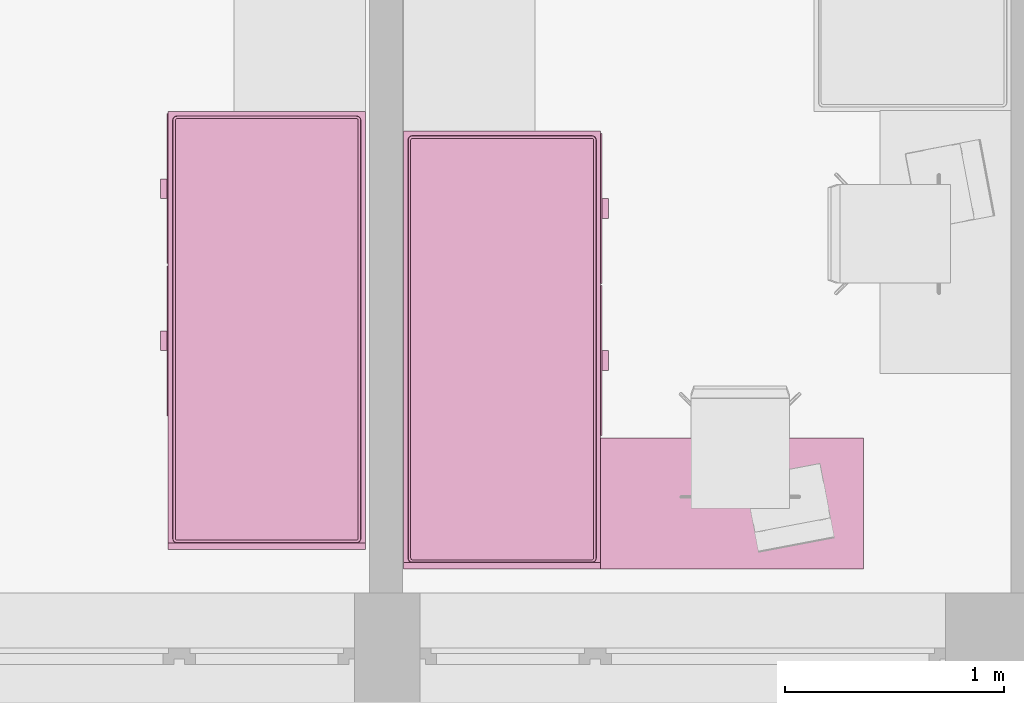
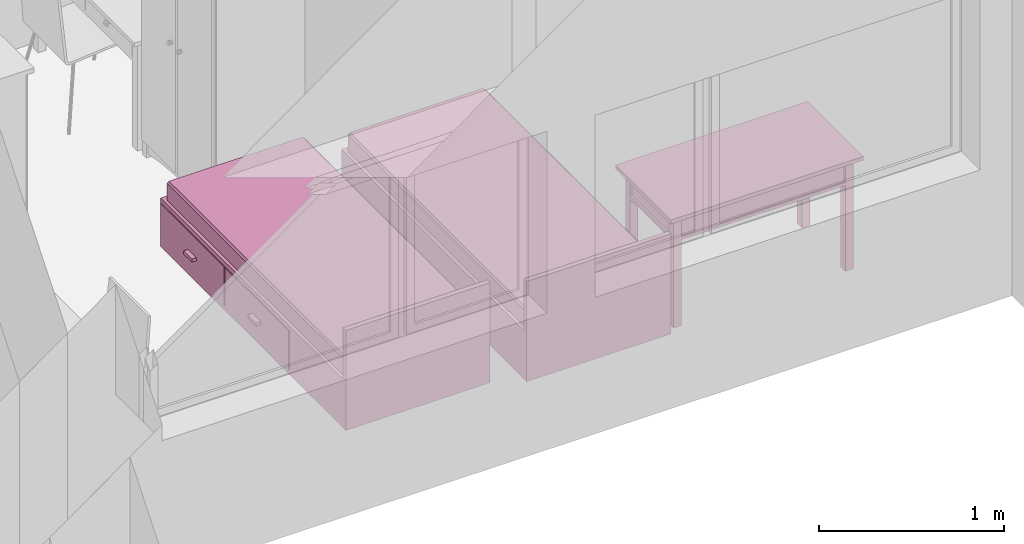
# One storey, part 78 of 172: 3 furnishings.
"""IFC2X3 building model written with IfcOpenShell, lengths in millimetres."""

from ifc_helpers import new_model, entity, si_unit, converted_unit, money_unit, direction, frame, origin_with_axes, place, context, subcontext, project, spatial, faceted_brep, source, transform, mapped, material, material_list, type_object, element, save


model = new_model("IFC2X3")

# Units and contexts
model_context = context("Model", 3, precision=1e-05, world=origin_with_axes(), true_north=direction((0.0, 1.0)))
body_context = subcontext(model_context, "Body", "Model", "MODEL_VIEW")
ifc_project = project(units=[si_unit("LENGTHUNIT", "METRE", prefix="MILLI"), si_unit("AREAUNIT", "SQUARE_METRE"), si_unit("VOLUMEUNIT", "CUBIC_METRE"), converted_unit("PLANEANGLEUNIT", "DEGREE", entity("IfcPlaneAngleMeasure", 0.0174532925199), si_unit("PLANEANGLEUNIT", "RADIAN"), dimensions=[0, 0, 0, 0, 0, 0, 0]), si_unit("SOLIDANGLEUNIT", "STERADIAN"), money_unit("USD"), converted_unit("TIMEUNIT", "Year", entity("IfcTimeMeasure", 31556926.0), si_unit("TIMEUNIT", "SECOND"), dimensions=[0, 0, 0, 0, 0, 0, 0]), si_unit("MASSUNIT", "GRAM"), si_unit("THERMODYNAMICTEMPERATUREUNIT", "DEGREE_CELSIUS"), si_unit("LUMINOUSINTENSITYUNIT", "LUMEN")], contexts=[model_context])

# Site, building, storey
site_placement = place(None, origin_with_axes())
site = spatial("IfcSite", under=ifc_project, at=site_placement, Name="Site", CompositionType="ELEMENT")
building_placement = place(site_placement, origin_with_axes())
building = spatial("IfcBuilding", under=site, at=building_placement, Name="Building", CompositionType="ELEMENT")
storey_placement = place(building_placement, frame((0.0, 0.0, 3200.0), z_axis=(0.0, 0.0, 1.0), x_axis=(1.0, 0.0, 0.0)))
storey = spatial("IfcBuildingStorey", under=building, at=storey_placement, Name="3KORRUS", CompositionType="ELEMENT", Elevation=3200.0)

# Furnishings
ifc_material = material(Name="Background")
ifc_material_list = material_list([ifc_material])
furnishing_element_type_1 = type_object("IfcFurnishingElementType", Name="Bed 19")
shared_shape_1 = source(origin_with_axes(), body_context, "Body", "Brep", [
    faceted_brep([(900.0, 1970.0, 0.0), (0.0, 1970.0, 0.0), (0.0, 2000.0, 0.0), (900.0, 2000.0, 0.0), (900.0, 1970.0, 660.0), (0.0, 1970.0, 660.0), (0.0, 2000.0, 660.0), (900.0, 2000.0, 660.0)], [[[0, 1, 2, 3]], [[1, 0, 4, 5]], [[2, 1, 5, 6]], [[3, 2, 6, 7]], [[0, 3, 7, 4]], [[5, 4, 7, 6]]]),
    faceted_brep([(900.0, 0.0, 0.0), (0.0, 0.0, 0.0), (0.0, 1970.0, 0.0), (900.0, 1970.0, 0.0), (900.0, 0.0, 320.0), (0.0, 0.0, 320.0), (0.0, 1970.0, 320.0), (900.0, 1970.0, 320.0)], [[[0, 1, 2, 3]], [[1, 0, 4, 5]], [[2, 1, 5, 6]], [[3, 2, 6, 7]], [[0, 3, 7, 4]], [[5, 4, 7, 6]]]),
    faceted_brep([(905.0, 10.0, 30.0), (900.0, 10.0, 30.0), (900.0, 695.0, 30.0), (905.0, 695.0, 30.0), (905.0, 10.0, 290.0), (900.0, 10.0, 290.0), (900.0, 695.0, 290.0), (905.0, 695.0, 290.0)], [[[0, 1, 2, 3]], [[1, 0, 4, 5]], [[2, 1, 5, 6]], [[3, 2, 6, 7]], [[0, 3, 7, 4]], [[5, 4, 7, 6]]]),
    faceted_brep([(935.0, 307.5, 150.0), (905.0, 307.5, 150.0), (905.0, 397.5, 150.0), (935.0, 397.5, 150.0), (935.0, 307.5, 170.0), (905.0, 307.5, 170.0), (905.0, 397.5, 170.0), (935.0, 397.5, 170.0)], [[[0, 1, 2, 3]], [[1, 0, 4, 5]], [[2, 1, 5, 6]], [[3, 2, 6, 7]], [[0, 3, 7, 4]], [[5, 4, 7, 6]]]),
    faceted_brep([(905.0, 705.0, 30.0), (900.0, 705.0, 30.0), (900.0, 1390.0, 30.0), (905.0, 1390.0, 30.0), (905.0, 705.0, 290.0), (900.0, 705.0, 290.0), (900.0, 1390.0, 290.0), (905.0, 1390.0, 290.0)], [[[0, 1, 2, 3]], [[1, 0, 4, 5]], [[2, 1, 5, 6]], [[3, 2, 6, 7]], [[0, 3, 7, 4]], [[5, 4, 7, 6]]]),
    faceted_brep([(935.0, 1002.5, 150.0), (905.0, 1002.5, 150.0), (905.0, 1092.5, 150.0), (935.0, 1092.5, 150.0), (935.0, 1002.5, 170.0), (905.0, 1002.5, 170.0), (905.0, 1092.5, 170.0), (935.0, 1092.5, 170.0)], [[[0, 1, 2, 3]], [[1, 0, 4, 5]], [[2, 1, 5, 6]], [[3, 2, 6, 7]], [[0, 3, 7, 4]], [[5, 4, 7, 6]]]),
    faceted_brep([(20.0, 40.0, 350.0), (20.0, 1950.0, 350.0), (21.522, 1957.654, 350.0), (25.858, 1964.142, 350.0), (32.346, 1968.478, 350.0), (40.0, 1970.0, 350.0), (860.0, 1970.0, 350.0), (867.654, 1968.478, 350.0), (874.142, 1964.142, 350.0), (878.478, 1957.654, 350.0), (880.0, 1950.0, 350.0), (880.0, 40.0, 350.0), (878.478, 32.346, 350.0), (874.142, 25.858, 350.0), (867.654, 21.522, 350.0), (860.0, 20.0, 350.0), (40.0, 20.0, 350.0), (32.346, 21.522, 350.0), (25.858, 25.858, 350.0), (21.522, 32.346, 350.0), (20.0, 40.0, 420.0), (20.0, 1950.0, 420.0), (21.522, 1957.654, 420.0), (25.858, 1964.142, 420.0), (32.346, 1968.478, 420.0), (40.0, 1970.0, 420.0), (860.0, 1970.0, 420.0), (867.654, 1968.478, 420.0), (874.142, 1964.142, 420.0), (878.478, 1957.654, 420.0), (880.0, 1950.0, 420.0), (880.0, 40.0, 420.0), (878.478, 32.346, 420.0), (874.142, 25.858, 420.0), (867.654, 21.522, 420.0), (860.0, 20.0, 420.0), (40.0, 20.0, 420.0), (32.346, 21.522, 420.0), (25.858, 25.858, 420.0), (21.522, 32.346, 420.0), (21.522, 40.15, 427.654), (21.522, 1949.85, 427.654), (22.956, 1957.06, 427.654), (26.955, 1963.045, 427.654), (32.94, 1967.044, 427.654), (40.15, 1968.478, 427.654), (859.85, 1968.478, 427.654), (867.06, 1967.044, 427.654), (873.045, 1963.045, 427.654), (877.044, 1957.06, 427.654), (878.478, 1949.85, 427.654), (878.478, 40.15, 427.654), (877.044, 32.94, 427.654), (873.045, 26.955, 427.654), (867.06, 22.956, 427.654), (859.85, 21.522, 427.654), (40.15, 21.522, 427.654), (32.94, 22.956, 427.654), (26.955, 26.955, 427.654), (22.956, 32.94, 427.654), (32.346, 41.216, 438.478), (32.346, 1948.784, 438.478), (33.152, 1952.836, 438.478), (34.759, 1955.241, 438.478), (37.164, 1956.848, 438.478), (41.216, 1957.654, 438.478), (858.784, 1957.654, 438.478), (862.836, 1956.848, 438.478), (865.241, 1955.241, 438.478), (866.848, 1952.836, 438.478), (867.654, 1948.784, 438.478), (867.654, 41.216, 438.478), (866.848, 37.164, 438.478), (865.241, 34.759, 438.478), (862.836, 33.152, 438.478), (858.784, 32.346, 438.478), (41.216, 32.346, 438.478), (37.164, 33.152, 438.478), (34.759, 34.759, 438.478), (33.152, 37.164, 438.478), (40.0, 41.97, 440.0), (40.0, 1948.03, 440.0), (40.327, 1949.673, 440.0), (40.0, 1950.0, 439.924), (41.97, 1950.0, 440.0), (858.03, 1950.0, 440.0), (859.673, 1949.673, 440.0), (860.0, 1950.0, 439.924), (860.0, 1948.03, 440.0), (860.0, 41.97, 440.0), (859.673, 40.327, 440.0), (860.0, 40.0, 439.924), (858.03, 40.0, 440.0), (41.97, 40.0, 440.0), (40.327, 40.327, 440.0), (40.0, 40.0, 439.924)], [[[0, 1, 2, 3, 4, 5, 6, 7, 8, 9, 10, 11, 12, 13, 14, 15, 16, 17, 18, 19]], [[1, 0, 20, 21]], [[2, 1, 21, 22]], [[3, 2, 22, 23]], [[4, 3, 23, 24]], [[5, 4, 24, 25]], [[6, 5, 25, 26]], [[7, 6, 26, 27]], [[8, 7, 27, 28]], [[9, 8, 28, 29]], [[10, 9, 29, 30]], [[11, 10, 30, 31]], [[12, 11, 31, 32]], [[13, 12, 32, 33]], [[14, 13, 33, 34]], [[15, 14, 34, 35]], [[16, 15, 35, 36]], [[17, 16, 36, 37]], [[18, 17, 37, 38]], [[19, 18, 38, 39]], [[0, 19, 39, 20]], [[21, 20, 40, 41]], [[22, 21, 41, 42]], [[23, 22, 42, 43]], [[24, 23, 43, 44]], [[25, 24, 44, 45]], [[26, 25, 45, 46]], [[27, 26, 46, 47]], [[28, 27, 47, 48]], [[29, 28, 48, 49]], [[30, 29, 49, 50]], [[31, 30, 50, 51]], [[32, 31, 51, 52]], [[33, 32, 52, 53]], [[34, 33, 53, 54]], [[35, 34, 54, 55]], [[36, 35, 55, 56]], [[37, 36, 56, 57]], [[38, 37, 57, 58]], [[39, 38, 58, 59]], [[20, 39, 59, 40]], [[41, 40, 60, 61]], [[42, 41, 61, 62]], [[43, 42, 62, 63]], [[44, 43, 63, 64]], [[45, 44, 64, 65]], [[46, 45, 65, 66]], [[47, 46, 66, 67]], [[48, 47, 67, 68]], [[49, 48, 68, 69]], [[50, 49, 69, 70]], [[51, 50, 70, 71]], [[52, 51, 71, 72]], [[53, 52, 72, 73]], [[54, 53, 73, 74]], [[55, 54, 74, 75]], [[56, 55, 75, 76]], [[57, 56, 76, 77]], [[58, 57, 77, 78]], [[59, 58, 78, 79]], [[40, 59, 79, 60]], [[61, 60, 80, 81]], [[62, 61, 81, 82, 83]], [[63, 62, 83]], [[64, 63, 83]], [[65, 64, 83, 82, 84]], [[66, 65, 84, 85]], [[67, 66, 85, 86, 87]], [[68, 67, 87]], [[69, 68, 87]], [[70, 69, 87, 86, 88]], [[71, 70, 88, 89]], [[72, 71, 89, 90, 91]], [[73, 72, 91]], [[74, 73, 91]], [[75, 74, 91, 90, 92]], [[76, 75, 92, 93]], [[77, 76, 93, 94, 95]], [[78, 77, 95]], [[79, 78, 95]], [[60, 79, 95, 94, 80]], [[81, 80, 94, 93, 92, 90, 89, 88, 86, 85, 84, 82]]]),
    faceted_brep([(20.0, 40.0, 350.0), (21.522, 32.346, 350.0), (25.858, 25.858, 350.0), (32.346, 21.522, 350.0), (40.0, 20.0, 350.0), (860.0, 20.0, 350.0), (867.654, 21.522, 350.0), (874.142, 25.858, 350.0), (878.478, 32.346, 350.0), (880.0, 40.0, 350.0), (880.0, 1950.0, 350.0), (878.478, 1957.654, 350.0), (874.142, 1964.142, 350.0), (867.654, 1968.478, 350.0), (860.0, 1970.0, 350.0), (40.0, 1970.0, 350.0), (32.346, 1968.478, 350.0), (25.858, 1964.142, 350.0), (21.522, 1957.654, 350.0), (20.0, 1950.0, 350.0), (20.0, 40.0, 320.0), (21.522, 32.346, 320.0), (25.858, 25.858, 320.0), (32.346, 21.522, 320.0), (40.0, 20.0, 320.0), (860.0, 20.0, 320.0), (867.654, 21.522, 320.0), (874.142, 25.858, 320.0), (878.478, 32.346, 320.0), (880.0, 40.0, 320.0), (880.0, 1950.0, 320.0), (878.478, 1957.654, 320.0), (874.142, 1964.142, 320.0), (867.654, 1968.478, 320.0), (860.0, 1970.0, 320.0), (40.0, 1970.0, 320.0), (32.346, 1968.478, 320.0), (25.858, 1964.142, 320.0), (21.522, 1957.654, 320.0), (20.0, 1950.0, 320.0)], [[[0, 1, 2, 3, 4, 5, 6, 7, 8, 9, 10, 11, 12, 13, 14, 15, 16, 17, 18, 19]], [[0, 20, 21, 1]], [[1, 21, 22, 2]], [[2, 22, 23, 3]], [[3, 23, 24, 4]], [[4, 24, 25, 5]], [[5, 25, 26, 6]], [[6, 26, 27, 7]], [[7, 27, 28, 8]], [[8, 28, 29, 9]], [[9, 29, 30, 10]], [[10, 30, 31, 11]], [[11, 31, 32, 12]], [[12, 32, 33, 13]], [[13, 33, 34, 14]], [[14, 34, 35, 15]], [[15, 35, 36, 16]], [[16, 36, 37, 17]], [[17, 37, 38, 18]], [[18, 38, 39, 19]], [[19, 39, 20, 0]], [[20, 39, 38, 37, 36, 35, 34, 33, 32, 31, 30, 29, 28, 27, 26, 25, 24, 23, 22, 21]]]),
])
furnishing_1_placement = place(storey_placement, frame((-45240.2967033, -17439.2398994, 0.0), z_axis=(0.0, 0.0, 1.0), x_axis=(-1.0, 0.0, 0.0)))
element("IfcFurnishingElement", 1, at=furnishing_1_placement, inside=storey, type_object=furnishing_element_type_1, material=ifc_material_list, Name="FU - 013", context=body_context, shape_type="MappedRepresentation", body=[
    mapped(shared_shape_1, transform((0.0, 0.0, 0.0))),
])
furnishing_element_type_2 = type_object("IfcFurnishingElementType", Name="Rectangular Table 01 19")
shared_shape_2 = source(origin_with_axes(), body_context, "Body", "Brep", [
    faceted_brep([(90.0, 40.0, 0.0), (40.0, 40.0, 0.0), (40.0, 90.0, 0.0), (90.0, 90.0, 0.0), (90.0, 40.0, 725.0), (40.0, 40.0, 725.0), (40.0, 90.0, 725.0), (90.0, 90.0, 725.0)], [[[0, 1, 2, 3]], [[1, 0, 4, 5]], [[2, 1, 5, 6]], [[3, 2, 6, 7]], [[0, 3, 7, 4]], [[5, 4, 7, 6]]]),
    faceted_brep([(1160.0, 40.0, 0.0), (1110.0, 40.0, 0.0), (1110.0, 90.0, 0.0), (1160.0, 90.0, 0.0), (1160.0, 40.0, 725.0), (1110.0, 40.0, 725.0), (1110.0, 90.0, 725.0), (1160.0, 90.0, 725.0)], [[[0, 1, 2, 3]], [[1, 0, 4, 5]], [[2, 1, 5, 6]], [[3, 2, 6, 7]], [[0, 3, 7, 4]], [[5, 4, 7, 6]]]),
    faceted_brep([(90.0, 510.0, 0.0), (40.0, 510.0, 0.0), (40.0, 560.0, 0.0), (90.0, 560.0, 0.0), (90.0, 510.0, 725.0), (40.0, 510.0, 725.0), (40.0, 560.0, 725.0), (90.0, 560.0, 725.0)], [[[0, 1, 2, 3]], [[1, 0, 4, 5]], [[2, 1, 5, 6]], [[3, 2, 6, 7]], [[0, 3, 7, 4]], [[5, 4, 7, 6]]]),
    faceted_brep([(1160.0, 510.0, 0.0), (1110.0, 510.0, 0.0), (1110.0, 560.0, 0.0), (1160.0, 560.0, 0.0), (1160.0, 510.0, 725.0), (1110.0, 510.0, 725.0), (1110.0, 560.0, 725.0), (1160.0, 560.0, 725.0)], [[[0, 1, 2, 3]], [[1, 0, 4, 5]], [[2, 1, 5, 6]], [[3, 2, 6, 7]], [[0, 3, 7, 4]], [[5, 4, 7, 6]]]),
    faceted_brep([(1160.0, 40.0, 565.0), (40.0, 40.0, 565.0), (40.0, 560.0, 565.0), (1160.0, 560.0, 565.0), (1160.0, 40.0, 585.0), (40.0, 40.0, 585.0), (40.0, 560.0, 585.0), (1160.0, 560.0, 585.0)], [[[0, 1, 2, 3]], [[1, 0, 4, 5]], [[2, 1, 5, 6]], [[3, 2, 6, 7]], [[0, 3, 7, 4]], [[5, 4, 7, 6]]]),
    faceted_brep([(1110.0, 52.5, 585.0), (90.0, 52.5, 585.0), (90.0, 77.5, 585.0), (1110.0, 77.5, 585.0), (1110.0, 52.5, 745.0), (90.0, 52.5, 745.0), (90.0, 77.5, 745.0), (1110.0, 77.5, 745.0)], [[[0, 1, 2, 3]], [[1, 0, 4, 5]], [[2, 1, 5, 6]], [[3, 2, 6, 7]], [[0, 3, 7, 4]], [[5, 4, 7, 6]]]),
    faceted_brep([(77.5, 90.0, 585.0), (52.5, 90.0, 585.0), (52.5, 510.0, 585.0), (77.5, 510.0, 585.0), (77.5, 90.0, 745.0), (52.5, 90.0, 745.0), (52.5, 510.0, 745.0), (77.5, 510.0, 745.0)], [[[0, 1, 2, 3]], [[1, 0, 4, 5]], [[2, 1, 5, 6]], [[3, 2, 6, 7]], [[0, 3, 7, 4]], [[5, 4, 7, 6]]]),
    faceted_brep([(90.0, 547.5, 585.0), (1110.0, 547.5, 585.0), (1110.0, 522.5, 585.0), (90.0, 522.5, 585.0), (90.0, 547.5, 745.0), (1110.0, 547.5, 745.0), (1110.0, 522.5, 745.0), (90.0, 522.5, 745.0)], [[[0, 1, 2, 3]], [[1, 0, 4, 5]], [[2, 1, 5, 6]], [[3, 2, 6, 7]], [[0, 3, 7, 4]], [[5, 4, 7, 6]]]),
    faceted_brep([(1122.5, 510.0, 585.0), (1147.5, 510.0, 585.0), (1147.5, 90.0, 585.0), (1122.5, 90.0, 585.0), (1122.5, 510.0, 745.0), (1147.5, 510.0, 745.0), (1147.5, 90.0, 745.0), (1122.5, 90.0, 745.0)], [[[0, 1, 2, 3]], [[1, 0, 4, 5]], [[2, 1, 5, 6]], [[3, 2, 6, 7]], [[0, 3, 7, 4]], [[5, 4, 7, 6]]]),
    faceted_brep([(597.5, 40.0, 585.0), (95.0, 40.0, 585.0), (95.0, 60.0, 585.0), (597.5, 60.0, 585.0), (597.5, 40.0, 745.0), (95.0, 40.0, 745.0), (95.0, 60.0, 745.0), (597.5, 60.0, 745.0)], [[[0, 1, 2, 3]], [[1, 0, 4, 5]], [[2, 1, 5, 6]], [[3, 2, 6, 7]], [[0, 3, 7, 4]], [[5, 4, 7, 6]]]),
    faceted_brep([(1105.0, 40.0, 585.0), (602.5, 40.0, 585.0), (602.5, 60.0, 585.0), (1105.0, 60.0, 585.0), (1105.0, 40.0, 745.0), (602.5, 40.0, 745.0), (602.5, 60.0, 745.0), (1105.0, 60.0, 745.0)], [[[0, 1, 2, 3]], [[1, 0, 4, 5]], [[2, 1, 5, 6]], [[3, 2, 6, 7]], [[0, 3, 7, 4]], [[5, 4, 7, 6]]]),
    faceted_brep([(354.91, 40.0, 660.0), (351.25, 40.0, 656.34), (346.25, 40.0, 655.0), (341.25, 40.0, 656.34), (337.59, 40.0, 660.0), (336.25, 40.0, 665.0), (337.59, 40.0, 670.0), (341.25, 40.0, 673.66), (346.25, 40.0, 675.0), (351.25, 40.0, 673.66), (354.91, 40.0, 670.0), (356.25, 40.0, 665.0), (354.91, 25.0, 660.0), (351.25, 25.0, 656.34), (346.25, 25.0, 655.0), (341.25, 25.0, 656.34), (337.59, 25.0, 660.0), (336.25, 25.0, 665.0), (337.59, 25.0, 670.0), (341.25, 25.0, 673.66), (346.25, 25.0, 675.0), (351.25, 25.0, 673.66), (354.91, 25.0, 670.0), (356.25, 25.0, 665.0)], [[[0, 1, 2, 3, 4, 5, 6, 7, 8, 9, 10, 11]], [[1, 0, 12, 13]], [[2, 1, 13, 14]], [[3, 2, 14, 15]], [[4, 3, 15, 16]], [[5, 4, 16, 17]], [[6, 5, 17, 18]], [[7, 6, 18, 19]], [[8, 7, 19, 20]], [[9, 8, 20, 21]], [[10, 9, 21, 22]], [[11, 10, 22, 23]], [[0, 11, 23, 12]], [[12, 23, 22, 21, 20, 19, 18, 17, 16, 15, 14, 13]]]),
    faceted_brep([(356.25, 12.01, 665.0), (346.25, 10.0, 665.0), (354.91, 12.01, 660.0), (354.91, 12.01, 670.0), (351.25, 12.01, 656.34), (363.571, 17.5, 665.0), (361.25, 17.5, 656.34), (351.25, 12.01, 673.66), (361.25, 17.5, 673.66), (346.25, 12.01, 655.0), (354.91, 17.5, 650.0), (366.25, 25.0, 665.0), (363.571, 25.0, 655.0), (346.25, 12.01, 675.0), (354.91, 17.5, 680.0), (363.571, 25.0, 675.0), (341.25, 12.01, 656.34), (346.25, 17.5, 647.679), (356.25, 25.0, 647.679), (346.25, 25.0, 645.0), (336.25, 25.0, 647.679), (328.929, 25.0, 655.0), (326.25, 25.0, 665.0), (328.929, 25.0, 675.0), (336.25, 25.0, 682.321), (346.25, 25.0, 685.0), (356.25, 25.0, 682.321), (341.25, 12.01, 673.66), (346.25, 17.5, 682.321), (337.59, 12.01, 660.0), (337.59, 17.5, 650.0), (331.25, 17.5, 656.34), (328.929, 17.5, 665.0), (331.25, 17.5, 673.66), (337.59, 17.5, 680.0), (337.59, 12.01, 670.0), (336.25, 12.01, 665.0)], [[[0, 1, 2]], [[3, 1, 0]], [[2, 1, 4]], [[5, 0, 2, 6]], [[7, 1, 3]], [[8, 3, 0, 5]], [[4, 1, 9]], [[6, 2, 4, 10]], [[11, 5, 6, 12]], [[13, 1, 7]], [[14, 7, 3, 8]], [[15, 8, 5, 11]], [[9, 1, 16]], [[10, 4, 9, 17]], [[12, 6, 10, 18]], [[12, 18, 19, 20, 21, 22, 23, 24, 25, 26, 15, 11]], [[27, 1, 13]], [[28, 13, 7, 14]], [[26, 14, 8, 15]], [[16, 1, 29]], [[17, 9, 16, 30]], [[18, 10, 17, 19]], [[19, 17, 30, 20]], [[20, 30, 31, 21]], [[21, 31, 32, 22]], [[22, 32, 33, 23]], [[23, 33, 34, 24]], [[24, 34, 28, 25]], [[25, 28, 14, 26]], [[35, 1, 27]], [[34, 27, 13, 28]], [[29, 1, 36]], [[30, 16, 29, 31]], [[31, 29, 36, 32]], [[32, 36, 35, 33]], [[33, 35, 27, 34]], [[36, 1, 35]]]),
    faceted_brep([(862.41, 40.0, 660.0), (858.75, 40.0, 656.34), (853.75, 40.0, 655.0), (848.75, 40.0, 656.34), (845.09, 40.0, 660.0), (843.75, 40.0, 665.0), (845.09, 40.0, 670.0), (848.75, 40.0, 673.66), (853.75, 40.0, 675.0), (858.75, 40.0, 673.66), (862.41, 40.0, 670.0), (863.75, 40.0, 665.0), (862.41, 25.0, 660.0), (858.75, 25.0, 656.34), (853.75, 25.0, 655.0), (848.75, 25.0, 656.34), (845.09, 25.0, 660.0), (843.75, 25.0, 665.0), (845.09, 25.0, 670.0), (848.75, 25.0, 673.66), (853.75, 25.0, 675.0), (858.75, 25.0, 673.66), (862.41, 25.0, 670.0), (863.75, 25.0, 665.0)], [[[0, 1, 2, 3, 4, 5, 6, 7, 8, 9, 10, 11]], [[1, 0, 12, 13]], [[2, 1, 13, 14]], [[3, 2, 14, 15]], [[4, 3, 15, 16]], [[5, 4, 16, 17]], [[6, 5, 17, 18]], [[7, 6, 18, 19]], [[8, 7, 19, 20]], [[9, 8, 20, 21]], [[10, 9, 21, 22]], [[11, 10, 22, 23]], [[0, 11, 23, 12]], [[12, 23, 22, 21, 20, 19, 18, 17, 16, 15, 14, 13]]]),
    faceted_brep([(863.75, 12.01, 665.0), (853.75, 10.0, 665.0), (862.41, 12.01, 660.0), (862.41, 12.01, 670.0), (858.75, 12.01, 656.34), (871.071, 17.5, 665.0), (868.75, 17.5, 656.34), (858.75, 12.01, 673.66), (868.75, 17.5, 673.66), (853.75, 12.01, 655.0), (862.41, 17.5, 650.0), (873.75, 25.0, 665.0), (871.071, 25.0, 655.0), (853.75, 12.01, 675.0), (862.41, 17.5, 680.0), (871.071, 25.0, 675.0), (848.75, 12.01, 656.34), (853.75, 17.5, 647.679), (863.75, 25.0, 647.679), (853.75, 25.0, 645.0), (843.75, 25.0, 647.679), (836.429, 25.0, 655.0), (833.75, 25.0, 665.0), (836.429, 25.0, 675.0), (843.75, 25.0, 682.321), (853.75, 25.0, 685.0), (863.75, 25.0, 682.321), (848.75, 12.01, 673.66), (853.75, 17.5, 682.321), (845.09, 12.01, 660.0), (845.09, 17.5, 650.0), (838.75, 17.5, 656.34), (836.429, 17.5, 665.0), (838.75, 17.5, 673.66), (845.09, 17.5, 680.0), (845.09, 12.01, 670.0), (843.75, 12.01, 665.0)], [[[0, 1, 2]], [[3, 1, 0]], [[2, 1, 4]], [[5, 0, 2, 6]], [[7, 1, 3]], [[8, 3, 0, 5]], [[4, 1, 9]], [[6, 2, 4, 10]], [[11, 5, 6, 12]], [[13, 1, 7]], [[14, 7, 3, 8]], [[15, 8, 5, 11]], [[9, 1, 16]], [[10, 4, 9, 17]], [[12, 6, 10, 18]], [[12, 18, 19, 20, 21, 22, 23, 24, 25, 26, 15, 11]], [[27, 1, 13]], [[28, 13, 7, 14]], [[26, 14, 8, 15]], [[16, 1, 29]], [[17, 9, 16, 30]], [[18, 10, 17, 19]], [[19, 17, 30, 20]], [[20, 30, 31, 21]], [[21, 31, 32, 22]], [[22, 32, 33, 23]], [[23, 33, 34, 24]], [[24, 34, 28, 25]], [[25, 28, 14, 26]], [[35, 1, 27]], [[34, 27, 13, 28]], [[29, 1, 36]], [[30, 16, 29, 31]], [[31, 29, 36, 32]], [[32, 36, 35, 33]], [[33, 35, 27, 34]], [[36, 1, 35]]]),
    faceted_brep([(1200.0, 0.0, 725.0), (0.0, 0.0, 725.0), (0.0, 600.0, 725.0), (1200.0, 600.0, 725.0), (1200.0, 0.0, 750.0), (0.0, 0.0, 750.0), (0.0, 600.0, 750.0), (1200.0, 600.0, 750.0)], [[[0, 1, 2, 3]], [[1, 0, 4, 5]], [[2, 1, 5, 6]], [[3, 2, 6, 7]], [[0, 3, 7, 4]], [[5, 4, 7, 6]]]),
])
furnishing_2_placement = place(storey_placement, frame((-42965.2967033, -18929.2398994, 0.0), z_axis=(0.0, 0.0, 1.0), x_axis=(-1.0, 0.0, 0.0)))
element("IfcFurnishingElement", 2, at=furnishing_2_placement, inside=storey, type_object=furnishing_element_type_2, material=ifc_material_list, Name="FU - 011", context=body_context, shape_type="MappedRepresentation", body=[
    mapped(shared_shape_2, transform((0.0, 0.0, 0.0))),
])
shared_shape_3 = source(origin_with_axes(), body_context, "Body", "Brep", [
    faceted_brep([(-900.0, 1970.0, 0.0), (-900.0, 2000.0, 0.0), (0.0, 2000.0, 0.0), (0.0, 1970.0, 0.0), (-900.0, 1970.0, 660.0), (-900.0, 2000.0, 660.0), (0.0, 2000.0, 660.0), (0.0, 1970.0, 660.0)], [[[0, 1, 2, 3]], [[0, 4, 5, 1]], [[1, 5, 6, 2]], [[2, 6, 7, 3]], [[3, 7, 4, 0]], [[7, 6, 5, 4]]]),
    faceted_brep([(-900.0, 0.0, 0.0), (-900.0, 1970.0, 0.0), (0.0, 1970.0, 0.0), (0.0, 0.0, 0.0), (-900.0, 0.0, 320.0), (-900.0, 1970.0, 320.0), (0.0, 1970.0, 320.0), (0.0, 0.0, 320.0)], [[[0, 1, 2, 3]], [[0, 4, 5, 1]], [[1, 5, 6, 2]], [[2, 6, 7, 3]], [[3, 7, 4, 0]], [[7, 6, 5, 4]]]),
    faceted_brep([(-905.0, 10.0, 30.0), (-905.0, 695.0, 30.0), (-900.0, 695.0, 30.0), (-900.0, 10.0, 30.0), (-905.0, 10.0, 290.0), (-905.0, 695.0, 290.0), (-900.0, 695.0, 290.0), (-900.0, 10.0, 290.0)], [[[0, 1, 2, 3]], [[0, 4, 5, 1]], [[1, 5, 6, 2]], [[2, 6, 7, 3]], [[3, 7, 4, 0]], [[7, 6, 5, 4]]]),
    faceted_brep([(-935.0, 307.5, 150.0), (-935.0, 397.5, 150.0), (-905.0, 397.5, 150.0), (-905.0, 307.5, 150.0), (-935.0, 307.5, 170.0), (-935.0, 397.5, 170.0), (-905.0, 397.5, 170.0), (-905.0, 307.5, 170.0)], [[[0, 1, 2, 3]], [[0, 4, 5, 1]], [[1, 5, 6, 2]], [[2, 6, 7, 3]], [[3, 7, 4, 0]], [[7, 6, 5, 4]]]),
    faceted_brep([(-905.0, 705.0, 30.0), (-905.0, 1390.0, 30.0), (-900.0, 1390.0, 30.0), (-900.0, 705.0, 30.0), (-905.0, 705.0, 290.0), (-905.0, 1390.0, 290.0), (-900.0, 1390.0, 290.0), (-900.0, 705.0, 290.0)], [[[0, 1, 2, 3]], [[0, 4, 5, 1]], [[1, 5, 6, 2]], [[2, 6, 7, 3]], [[3, 7, 4, 0]], [[7, 6, 5, 4]]]),
    faceted_brep([(-935.0, 1002.5, 150.0), (-935.0, 1092.5, 150.0), (-905.0, 1092.5, 150.0), (-905.0, 1002.5, 150.0), (-935.0, 1002.5, 170.0), (-935.0, 1092.5, 170.0), (-905.0, 1092.5, 170.0), (-905.0, 1002.5, 170.0)], [[[0, 1, 2, 3]], [[0, 4, 5, 1]], [[1, 5, 6, 2]], [[2, 6, 7, 3]], [[3, 7, 4, 0]], [[7, 6, 5, 4]]]),
    faceted_brep([(-20.0, 40.0, 350.0), (-21.522, 32.346, 350.0), (-25.858, 25.858, 350.0), (-32.346, 21.522, 350.0), (-40.0, 20.0, 350.0), (-860.0, 20.0, 350.0), (-867.654, 21.522, 350.0), (-874.142, 25.858, 350.0), (-878.478, 32.346, 350.0), (-880.0, 40.0, 350.0), (-880.0, 1950.0, 350.0), (-878.478, 1957.654, 350.0), (-874.142, 1964.142, 350.0), (-867.654, 1968.478, 350.0), (-860.0, 1970.0, 350.0), (-40.0, 1970.0, 350.0), (-32.346, 1968.478, 350.0), (-25.858, 1964.142, 350.0), (-21.522, 1957.654, 350.0), (-20.0, 1950.0, 350.0), (-20.0, 40.0, 420.0), (-21.522, 32.346, 420.0), (-25.858, 25.858, 420.0), (-32.346, 21.522, 420.0), (-40.0, 20.0, 420.0), (-860.0, 20.0, 420.0), (-867.654, 21.522, 420.0), (-874.142, 25.858, 420.0), (-878.478, 32.346, 420.0), (-880.0, 40.0, 420.0), (-880.0, 1950.0, 420.0), (-878.478, 1957.654, 420.0), (-874.142, 1964.142, 420.0), (-867.654, 1968.478, 420.0), (-860.0, 1970.0, 420.0), (-40.0, 1970.0, 420.0), (-32.346, 1968.478, 420.0), (-25.858, 1964.142, 420.0), (-21.522, 1957.654, 420.0), (-20.0, 1950.0, 420.0), (-21.522, 40.15, 427.654), (-22.956, 32.94, 427.654), (-26.955, 26.955, 427.654), (-32.94, 22.956, 427.654), (-40.15, 21.522, 427.654), (-859.85, 21.522, 427.654), (-867.06, 22.956, 427.654), (-873.045, 26.955, 427.654), (-877.044, 32.94, 427.654), (-878.478, 40.15, 427.654), (-878.478, 1949.85, 427.654), (-877.044, 1957.06, 427.654), (-873.045, 1963.045, 427.654), (-867.06, 1967.044, 427.654), (-859.85, 1968.478, 427.654), (-40.15, 1968.478, 427.654), (-32.94, 1967.044, 427.654), (-26.955, 1963.045, 427.654), (-22.956, 1957.06, 427.654), (-21.522, 1949.85, 427.654), (-32.346, 41.216, 438.478), (-33.152, 37.164, 438.478), (-34.759, 34.759, 438.478), (-37.164, 33.152, 438.478), (-41.216, 32.346, 438.478), (-858.784, 32.346, 438.478), (-862.836, 33.152, 438.478), (-865.241, 34.759, 438.478), (-866.848, 37.164, 438.478), (-867.654, 41.216, 438.478), (-867.654, 1948.784, 438.478), (-866.848, 1952.836, 438.478), (-865.241, 1955.241, 438.478), (-862.836, 1956.848, 438.478), (-858.784, 1957.654, 438.478), (-41.216, 1957.654, 438.478), (-37.164, 1956.848, 438.478), (-34.759, 1955.241, 438.478), (-33.152, 1952.836, 438.478), (-32.346, 1948.784, 438.478), (-40.0, 41.97, 440.0), (-40.327, 40.327, 440.0), (-40.0, 40.0, 439.924), (-41.97, 40.0, 440.0), (-858.03, 40.0, 440.0), (-859.673, 40.327, 440.0), (-860.0, 40.0, 439.924), (-860.0, 41.97, 440.0), (-860.0, 1948.03, 440.0), (-859.673, 1949.673, 440.0), (-860.0, 1950.0, 439.924), (-858.03, 1950.0, 440.0), (-41.97, 1950.0, 440.0), (-40.327, 1949.673, 440.0), (-40.0, 1950.0, 439.924), (-40.0, 1948.03, 440.0)], [[[0, 1, 2, 3, 4, 5, 6, 7, 8, 9, 10, 11, 12, 13, 14, 15, 16, 17, 18, 19]], [[0, 20, 21, 1]], [[1, 21, 22, 2]], [[2, 22, 23, 3]], [[3, 23, 24, 4]], [[4, 24, 25, 5]], [[5, 25, 26, 6]], [[6, 26, 27, 7]], [[7, 27, 28, 8]], [[8, 28, 29, 9]], [[9, 29, 30, 10]], [[10, 30, 31, 11]], [[11, 31, 32, 12]], [[12, 32, 33, 13]], [[13, 33, 34, 14]], [[14, 34, 35, 15]], [[15, 35, 36, 16]], [[16, 36, 37, 17]], [[17, 37, 38, 18]], [[18, 38, 39, 19]], [[19, 39, 20, 0]], [[20, 40, 41, 21]], [[21, 41, 42, 22]], [[22, 42, 43, 23]], [[23, 43, 44, 24]], [[24, 44, 45, 25]], [[25, 45, 46, 26]], [[26, 46, 47, 27]], [[27, 47, 48, 28]], [[28, 48, 49, 29]], [[29, 49, 50, 30]], [[30, 50, 51, 31]], [[31, 51, 52, 32]], [[32, 52, 53, 33]], [[33, 53, 54, 34]], [[34, 54, 55, 35]], [[35, 55, 56, 36]], [[36, 56, 57, 37]], [[37, 57, 58, 38]], [[38, 58, 59, 39]], [[39, 59, 40, 20]], [[40, 60, 61, 41]], [[41, 61, 62, 42]], [[42, 62, 63, 43]], [[43, 63, 64, 44]], [[44, 64, 65, 45]], [[45, 65, 66, 46]], [[46, 66, 67, 47]], [[47, 67, 68, 48]], [[48, 68, 69, 49]], [[49, 69, 70, 50]], [[50, 70, 71, 51]], [[51, 71, 72, 52]], [[52, 72, 73, 53]], [[53, 73, 74, 54]], [[54, 74, 75, 55]], [[55, 75, 76, 56]], [[56, 76, 77, 57]], [[57, 77, 78, 58]], [[58, 78, 79, 59]], [[59, 79, 60, 40]], [[60, 80, 81, 82, 61]], [[61, 82, 62]], [[62, 82, 63]], [[63, 82, 81, 83, 64]], [[64, 83, 84, 65]], [[65, 84, 85, 86, 66]], [[66, 86, 67]], [[67, 86, 68]], [[68, 86, 85, 87, 69]], [[69, 87, 88, 70]], [[70, 88, 89, 90, 71]], [[71, 90, 72]], [[72, 90, 73]], [[73, 90, 89, 91, 74]], [[74, 91, 92, 75]], [[75, 92, 93, 94, 76]], [[76, 94, 77]], [[77, 94, 78]], [[78, 94, 93, 95, 79]], [[79, 95, 80, 60]], [[95, 93, 92, 91, 89, 88, 87, 85, 84, 83, 81, 80]]]),
    faceted_brep([(-20.0, 40.0, 350.0), (-20.0, 1950.0, 350.0), (-21.522, 1957.654, 350.0), (-25.858, 1964.142, 350.0), (-32.346, 1968.478, 350.0), (-40.0, 1970.0, 350.0), (-860.0, 1970.0, 350.0), (-867.654, 1968.478, 350.0), (-874.142, 1964.142, 350.0), (-878.478, 1957.654, 350.0), (-880.0, 1950.0, 350.0), (-880.0, 40.0, 350.0), (-878.478, 32.346, 350.0), (-874.142, 25.858, 350.0), (-867.654, 21.522, 350.0), (-860.0, 20.0, 350.0), (-40.0, 20.0, 350.0), (-32.346, 21.522, 350.0), (-25.858, 25.858, 350.0), (-21.522, 32.346, 350.0), (-20.0, 40.0, 320.0), (-20.0, 1950.0, 320.0), (-21.522, 1957.654, 320.0), (-25.858, 1964.142, 320.0), (-32.346, 1968.478, 320.0), (-40.0, 1970.0, 320.0), (-860.0, 1970.0, 320.0), (-867.654, 1968.478, 320.0), (-874.142, 1964.142, 320.0), (-878.478, 1957.654, 320.0), (-880.0, 1950.0, 320.0), (-880.0, 40.0, 320.0), (-878.478, 32.346, 320.0), (-874.142, 25.858, 320.0), (-867.654, 21.522, 320.0), (-860.0, 20.0, 320.0), (-40.0, 20.0, 320.0), (-32.346, 21.522, 320.0), (-25.858, 25.858, 320.0), (-21.522, 32.346, 320.0)], [[[0, 1, 2, 3, 4, 5, 6, 7, 8, 9, 10, 11, 12, 13, 14, 15, 16, 17, 18, 19]], [[1, 0, 20, 21]], [[2, 1, 21, 22]], [[3, 2, 22, 23]], [[4, 3, 23, 24]], [[5, 4, 24, 25]], [[6, 5, 25, 26]], [[7, 6, 26, 27]], [[8, 7, 27, 28]], [[9, 8, 28, 29]], [[10, 9, 29, 30]], [[11, 10, 30, 31]], [[12, 11, 31, 32]], [[13, 12, 32, 33]], [[14, 13, 33, 34]], [[15, 14, 34, 35]], [[16, 15, 35, 36]], [[17, 16, 36, 37]], [[18, 17, 37, 38]], [[19, 18, 38, 39]], [[0, 19, 39, 20]], [[20, 39, 38, 37, 36, 35, 34, 33, 32, 31, 30, 29, 28, 27, 26, 25, 24, 23, 22, 21]]]),
])
furnishing_3_placement = place(storey_placement, frame((-45065.2967033, -17529.2398994, 0.0), z_axis=(0.0, 0.0, 1.0), x_axis=(-1.0, 0.0, 0.0)))
element("IfcFurnishingElement", 3, at=furnishing_3_placement, inside=storey, type_object=furnishing_element_type_1, material=ifc_material_list, Name="FU - 013", context=body_context, shape_type="MappedRepresentation", body=[
    mapped(shared_shape_3, transform((0.0, 0.0, 0.0))),
])

save(model, "model.ifc")
